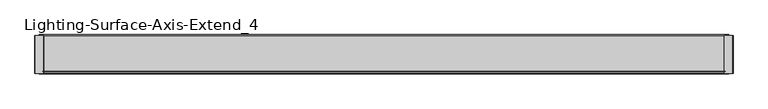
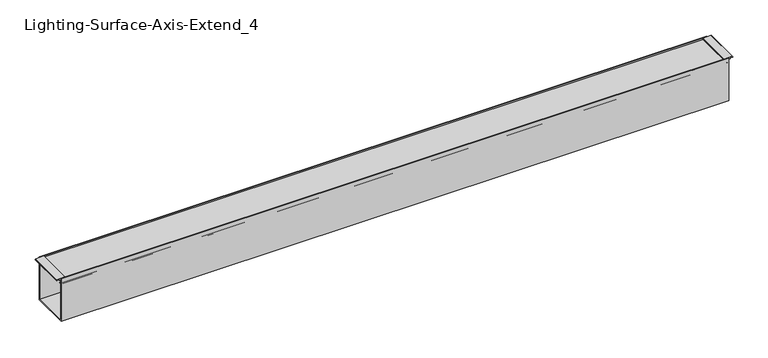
"""IFC4 building model written with IfcOpenShell, lengths in millimetres: light fixture geometry, Lighting-Surface-Axis-Extend_4 : EX4S-900-80-35-SO-4."""

from ifc_helpers import new_model, si_unit, point, frame, frame_2d, origin, place, context, project, spatial, polyline, circle_curve, trimmed, segment, composite_curve, outline, extrude, source, transform, mapped, element, save


def lighting_surface_axis_extend_4_310553ae(model_context):
    return source(origin(), model_context, "Body", "SweptSolid", [
        extrude(outline(polyline([(123.6757861, 935.6598), (124.7775, 934.7352563), (124.7775, 912.3781437), (123.6757861, 911.4536), (122.20575, 911.4536), (122.20575, 912.24735), (122.9995, 912.24735), (122.9995, 918.718), (120.1932981, 918.718), (120.1932981, 928.3954), (122.9995, 928.3954), (122.9995, 934.86605), (122.20575, 934.86605), (122.20575, 935.6598), (123.6757861, 935.6598)])), frame((0.0, -50.75301, 0.0), z_axis=(0.0, 1.0, 0.0), x_axis=(0.0, 0.0, 1.0)), (0.0, 0.0, 1.0), 101.50602),
        extrude(outline(polyline([(123.6757861, -911.4536), (124.7775, -912.3781437), (124.7775, -934.7352563), (123.6757861, -935.6598), (122.20575, -935.6598), (122.20575, -934.86605), (122.9995, -934.86605), (122.9995, -928.3954), (120.1932981, -928.3954), (120.1932981, -918.718), (122.9995, -918.718), (122.9995, -912.24735), (122.20575, -912.24735), (122.20575, -911.4536), (123.6757861, -911.4536)])), frame((0.0, -50.75301, 0.0), z_axis=(0.0, 1.0, 0.0), x_axis=(0.0, 0.0, 1.0)), (0.0, 0.0, 1.0), 101.50602),
        extrude(outline(composite_curve([segment(polyline([(-44.9537362, 119.8879991), (-45.2924281, 113.4253737)]), True, "CONTINUOUS"), segment(trimmed(circle_curve(frame_2d((-48.03521, 110.4265)), 4.064), [point((-45.2924281, 113.4253737))], [point((-46.1628914, 106.8194903))], False, "CARTESIAN"), True, "CONTINUOUS"), segment(trimmed(circle_curve(frame_2d((-42.930354, 107.6083457)), 3.3274001), [point((-46.1628914, 106.8194903))], [point((-45.3476056, 105.3217575))], True, "CARTESIAN"), True, "CONTINUOUS"), segment(trimmed(circle_curve(frame_2d((-37.9113277, 112.3560708)), 10.2362001), [point((-45.3476056, 105.3217575))], [point((-43.9929166, 104.1223555))], True, "CARTESIAN"), True, "CONTINUOUS"), segment(trimmed(circle_curve(frame_2d((-44.4833673, 103.4583462)), 0.8255), [point((-43.9929166, 104.1223555))], [point((-44.973818, 102.7943369))], False, "CARTESIAN"), True, "CONTINUOUS"), segment(trimmed(circle_curve(frame_2d((-37.9113269, 112.3560717)), 11.8872013), [point((-44.973818, 102.7943369))], [point((-46.5470052, 104.1871908))], False, "CARTESIAN"), True, "CONTINUOUS"), segment(trimmed(circle_curve(frame_2d((-42.930354, 107.6083457)), 4.9784001), [point((-46.5470052, 104.1871908))], [point((-47.8918907, 108.01776))], False, "CARTESIAN"), True, "CONTINUOUS"), segment(trimmed(circle_curve(frame_2d((-48.03521, 110.4265)), 2.413), [point((-47.8918907, 108.01776))], [point((-46.2564041, 112.0569658))], True, "CARTESIAN"), True, "CONTINUOUS"), segment(trimmed(circle_curve(frame_2d((-44.3839769, 113.7732456)), 2.54), [point((-46.2564041, 112.0569658))], [point((-46.9204959, 113.9061789))], False, "CARTESIAN"), True, "CONTINUOUS"), segment(polyline([(-46.9204959, 113.9061789), (-46.607002, 119.8879991), (-49.61001, 119.8879991), (-49.61001, 121.793), (49.61001, 121.793), (49.61001, 119.8879991), (46.607002, 119.8879991), (46.9204959, 113.9061789)]), True, "CONTINUOUS"), segment(trimmed(circle_curve(frame_2d((44.3839769, 113.7732456)), 2.54), [point((46.9204959, 113.9061789))], [point((46.2564041, 112.0569658))], False, "CARTESIAN"), True, "CONTINUOUS"), segment(trimmed(circle_curve(frame_2d((48.03521, 110.4265)), 2.413), [point((46.2564041, 112.0569658))], [point((47.8918907, 108.01776))], True, "CARTESIAN"), True, "CONTINUOUS"), segment(trimmed(circle_curve(frame_2d((42.930354, 107.6083457)), 4.9784001), [point((47.8918907, 108.01776))], [point((46.5470052, 104.1871908))], False, "CARTESIAN"), True, "CONTINUOUS"), segment(trimmed(circle_curve(frame_2d((37.9113269, 112.3560717)), 11.8872013), [point((46.5470052, 104.1871908))], [point((44.973818, 102.7943369))], False, "CARTESIAN"), True, "CONTINUOUS"), segment(trimmed(circle_curve(frame_2d((44.4833673, 103.4583462)), 0.8255), [point((44.973818, 102.7943369))], [point((43.9929166, 104.1223555))], False, "CARTESIAN"), True, "CONTINUOUS"), segment(trimmed(circle_curve(frame_2d((37.9113277, 112.3560708)), 10.2362001), [point((43.9929166, 104.1223555))], [point((45.3476056, 105.3217575))], True, "CARTESIAN"), True, "CONTINUOUS"), segment(trimmed(circle_curve(frame_2d((42.930354, 107.6083457)), 3.3274001), [point((45.3476056, 105.3217575))], [point((46.1628914, 106.8194903))], True, "CARTESIAN"), True, "CONTINUOUS"), segment(trimmed(circle_curve(frame_2d((48.03521, 110.4265)), 4.064), [point((46.1628914, 106.8194903))], [point((45.2924281, 113.4253737))], False, "CARTESIAN"), True, "CONTINUOUS"), segment(polyline([(45.2924281, 113.4253737), (44.9537362, 119.8879991), (-44.9537362, 119.8879991)]), True, "CONTINUOUS")], self_intersect=False)), frame((-914.4, 0.0, 0.0), z_axis=(1.0, 0.0, 0.0), x_axis=(0.0, 1.0, 0.0)), (0.0, 0.0, 1.0), 1828.8),
        extrude(outline(composite_curve([segment(polyline([(-50.75301, 109.8677), (-50.75301, 2.032), (50.75301, 2.032), (50.75301, 109.8677), (48.9135897, 109.8677)]), True, "CONTINUOUS"), segment(trimmed(circle_curve(frame_2d((47.4072397, 109.8677)), 1.5063501), [point((48.9135897, 109.8677))], [point((46.6540646, 108.5631626))], False, "CARTESIAN"), True, "CONTINUOUS"), segment(trimmed(circle_curve(frame_2d((47.8452221, 110.6263079)), 2.382315), [point((46.6540646, 108.5631626))], [point((45.4706616, 110.8183682))], False, "CARTESIAN"), True, "CONTINUOUS"), segment(polyline([(45.4706616, 110.8183682), (48.84801, 113.6523), (48.84801, 111.8997), (50.75301, 111.8997), (50.75301, 118.4275), (48.84801, 118.4275), (48.84801, 116.9035), (47.19701, 116.9900252), (47.19701, 119.6975), (50.75301, 119.6975), (50.75301, 124.7775), (52.78501, 124.7775), (52.78501, 0.0), (-52.78501, 0.0), (-52.78501, 124.7775), (-50.75301, 124.7775), (-50.75301, 119.6975), (-47.19701, 119.6975), (-47.19701, 116.9900252), (-48.84801, 116.9035), (-48.84801, 118.4275), (-50.75301, 118.4275), (-50.75301, 111.8997), (-48.84801, 111.8997), (-48.84801, 113.6523), (-45.4706616, 110.8183682)]), True, "CONTINUOUS"), segment(trimmed(circle_curve(frame_2d((-47.8452221, 110.6263079)), 2.382315), [point((-45.4706616, 110.8183682))], [point((-46.6540646, 108.5631626))], False, "CARTESIAN"), True, "CONTINUOUS"), segment(trimmed(circle_curve(frame_2d((-47.4072397, 109.8677)), 1.5063501), [point((-46.6540646, 108.5631626))], [point((-48.9135897, 109.8677))], False, "CARTESIAN"), True, "CONTINUOUS"), segment(polyline([(-48.9135897, 109.8677), (-50.75301, 109.8677)]), True, "CONTINUOUS")], self_intersect=False)), frame((-923.5567, 0.0, 0.0), z_axis=(1.0, 0.0, 0.0), x_axis=(0.0, 1.0, 0.0)), (0.0, 0.0, 1.0), 1847.1134),
    ])


if __name__ == "__main__":
    model = new_model("IFC4")
    model_context = context("Model", 3, world=origin())
    ifc_project = project(units=[si_unit("LENGTHUNIT", "METRE", prefix="MILLI")], contexts=[model_context])
    site = spatial("IfcSite", under=ifc_project)
    building = spatial("IfcBuilding", under=site)
    placement = place(None, origin())
    lighting_surface_axis_extend_4_shape = lighting_surface_axis_extend_4_310553ae(model_context)
    element("IfcLightFixture", 1, ObjectType="Lighting-Surface-Axis-Extend_4 : EX4S-900-80-35-SO-4", at=placement, inside=building, context=model_context, shape_type="MappedRepresentation", body=[
        mapped(lighting_surface_axis_extend_4_shape, transform((0.0, 0.0, 0.0), x_axis=(1.0, 0.0, 0.0), y_axis=(0.0, 1.0, 0.0), z_axis=(0.0, 0.0, 1.0))),
    ])
    save(model, "model.ifc")
